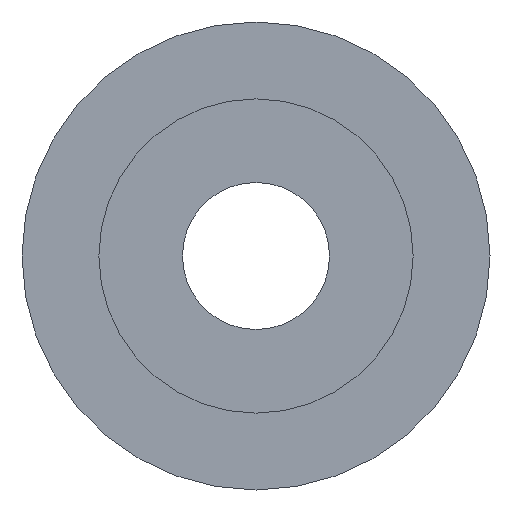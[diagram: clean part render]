
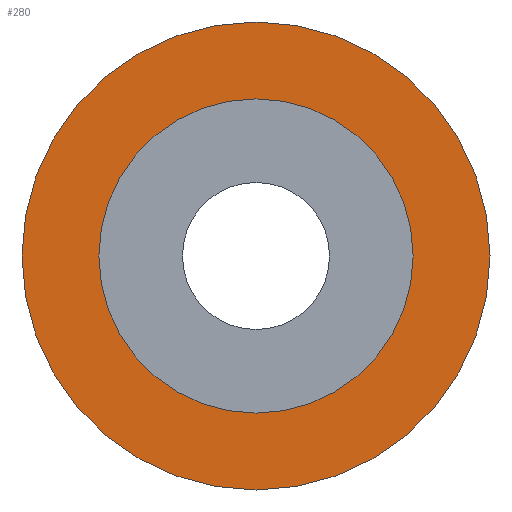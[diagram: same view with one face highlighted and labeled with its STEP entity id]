
A CAD part, left-side view. The second image highlights one B-rep face of the part: STEP entity #280.
In plain terms, the highlighted planar face has unit normal (-1, 0, 0).
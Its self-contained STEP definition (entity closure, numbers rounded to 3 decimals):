
#21 = EDGE_CURVE('',#22,#22,#24,.T.);
#22 = VERTEX_POINT('',#23);
#23 = CARTESIAN_POINT('',(15.,0.,-23.5));
#24 = SURFACE_CURVE('',#25,(#30,#42),.PCURVE_S1.);
#25 = CIRCLE('',#26,23.5);
#26 = AXIS2_PLACEMENT_3D('',#27,#28,#29);
#27 = CARTESIAN_POINT('',(15.,0.,0.));
#28 = DIRECTION('',(1.,-0.,0.));
#29 = DIRECTION('',(0.,0.,-1.));
#30 = PCURVE('',#31,#36);
#31 = CYLINDRICAL_SURFACE('',#32,23.5);
#32 = AXIS2_PLACEMENT_3D('',#33,#34,#35);
#33 = CARTESIAN_POINT('',(0.,0.,0.));
#34 = DIRECTION('',(1.,0.,0.));
#35 = DIRECTION('',(0.,0.,-1.));
#36 = DEFINITIONAL_REPRESENTATION('',(#37),#41);
#37 = LINE('',#38,#39);
#38 = CARTESIAN_POINT('',(0.,15.));
#39 = VECTOR('',#40,1.);
#40 = DIRECTION('',(1.,0.));
#41 = ( GEOMETRIC_REPRESENTATION_CONTEXT(2) 
PARAMETRIC_REPRESENTATION_CONTEXT() REPRESENTATION_CONTEXT('2D SPACE',''
  ) );
#42 = PCURVE('',#43,#48);
#43 = PLANE('',#44);
#44 = AXIS2_PLACEMENT_3D('',#45,#46,#47);
#45 = CARTESIAN_POINT('',(15.,0.,0.));
#46 = DIRECTION('',(1.,0.,0.));
#47 = DIRECTION('',(0.,0.,-1.));
#48 = DEFINITIONAL_REPRESENTATION('',(#49),#53);
#49 = CIRCLE('',#50,23.5);
#50 = AXIS2_PLACEMENT_2D('',#51,#52);
#51 = CARTESIAN_POINT('',(0.,0.));
#52 = DIRECTION('',(1.,0.));
#53 = ( GEOMETRIC_REPRESENTATION_CONTEXT(2) 
PARAMETRIC_REPRESENTATION_CONTEXT() REPRESENTATION_CONTEXT('2D SPACE',''
  ) );
#216 = CYLINDRICAL_SURFACE('',#217,35.);
#217 = AXIS2_PLACEMENT_3D('',#218,#219,#220);
#218 = CARTESIAN_POINT('',(15.,0.,0.));
#219 = DIRECTION('',(1.,0.,0.));
#220 = DIRECTION('',(0.,0.,-1.));
#236 = VERTEX_POINT('',#237);
#237 = CARTESIAN_POINT('',(15.,0.,-35.));
#258 = EDGE_CURVE('',#236,#236,#259,.T.);
#259 = SURFACE_CURVE('',#260,(#265,#272),.PCURVE_S1.);
#260 = CIRCLE('',#261,35.);
#261 = AXIS2_PLACEMENT_3D('',#262,#263,#264);
#262 = CARTESIAN_POINT('',(15.,0.,0.));
#263 = DIRECTION('',(1.,-0.,0.));
#264 = DIRECTION('',(0.,0.,-1.));
#265 = PCURVE('',#216,#266);
#266 = DEFINITIONAL_REPRESENTATION('',(#267),#271);
#267 = LINE('',#268,#269);
#268 = CARTESIAN_POINT('',(0.,0.));
#269 = VECTOR('',#270,1.);
#270 = DIRECTION('',(1.,0.));
#271 = ( GEOMETRIC_REPRESENTATION_CONTEXT(2) 
PARAMETRIC_REPRESENTATION_CONTEXT() REPRESENTATION_CONTEXT('2D SPACE',''
  ) );
#272 = PCURVE('',#43,#273);
#273 = DEFINITIONAL_REPRESENTATION('',(#274),#278);
#274 = CIRCLE('',#275,35.);
#275 = AXIS2_PLACEMENT_2D('',#276,#277);
#276 = CARTESIAN_POINT('',(0.,0.));
#277 = DIRECTION('',(1.,0.));
#278 = ( GEOMETRIC_REPRESENTATION_CONTEXT(2) 
PARAMETRIC_REPRESENTATION_CONTEXT() REPRESENTATION_CONTEXT('2D SPACE',''
  ) );
#280 = ADVANCED_FACE('',(#281,#284),#43,.F.);
#281 = FACE_BOUND('',#282,.F.);
#282 = EDGE_LOOP('',(#283));
#283 = ORIENTED_EDGE('',*,*,#258,.T.);
#284 = FACE_BOUND('',#285,.F.);
#285 = EDGE_LOOP('',(#286));
#286 = ORIENTED_EDGE('',*,*,#21,.F.);
